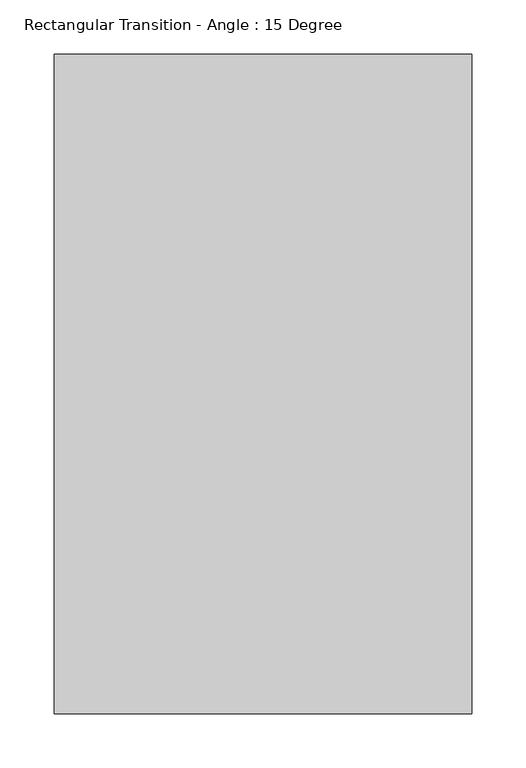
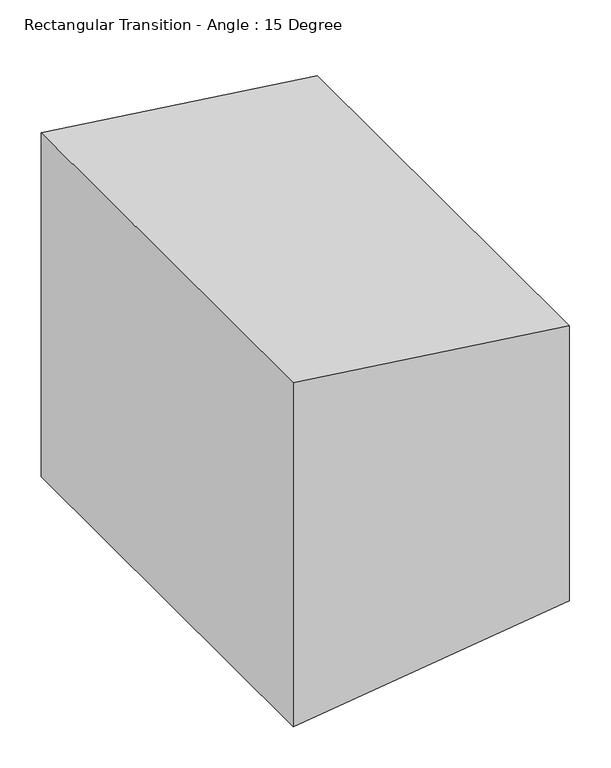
"""IFC4 building model written with IfcOpenShell, lengths in millimetres: duct fitting geometry, Rectangular Transition - Angle : 15 Degree."""

from ifc_helpers import new_model, si_unit, frame, origin, place, context, project, spatial, polyline, outline, extrude, source, transform, mapped, element, save


def rectangular_transition_angle_15_degree_f904afc0(model_context):
    return source(origin(), model_context, "Body", "SweptSolid", [
        extrude(outline(polyline([(254.0, 0.0), (-254.0, 0.0), (-203.2, 385.8643089), (203.2, 385.8643089), (254.0, 0.0)])), frame((0.0, -304.8, 0.0), z_axis=(0.0, 1.0, 0.0), x_axis=(0.0, 0.0, 1.0)), (0.0, 0.0, 1.0), 609.6),
    ])


if __name__ == "__main__":
    model = new_model("IFC4")
    model_context = context("Model", 3, world=origin())
    ifc_project = project(units=[si_unit("LENGTHUNIT", "METRE", prefix="MILLI")], contexts=[model_context])
    site = spatial("IfcSite", under=ifc_project)
    building = spatial("IfcBuilding", under=site)
    placement = place(None, origin())
    rectangular_transition_angle_15_degree_shape = rectangular_transition_angle_15_degree_f904afc0(model_context)
    element("IfcDuctFitting", 1, ObjectType="Rectangular Transition - Angle : 15 Degree", at=placement, inside=building, context=model_context, shape_type="MappedRepresentation", body=[
        mapped(rectangular_transition_angle_15_degree_shape, transform((0.0, 0.0, 0.0), x_axis=(1.0, 0.0, 0.0), y_axis=(0.0, 1.0, 0.0), z_axis=(0.0, 0.0, 1.0))),
    ])
    save(model, "model.ifc")
